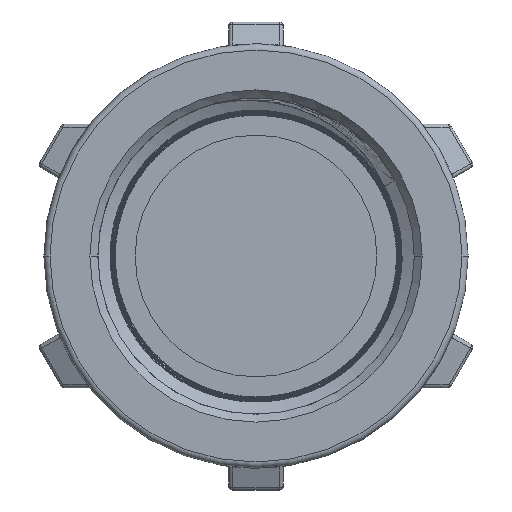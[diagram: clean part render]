
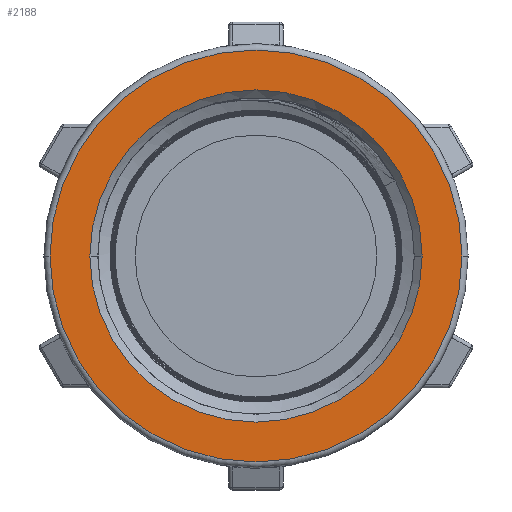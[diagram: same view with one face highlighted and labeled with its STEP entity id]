
A CAD part, front view. The second image highlights one B-rep face of the part: STEP entity #2188.
In plain terms, the highlighted planar face has unit normal (0, -1, 0).
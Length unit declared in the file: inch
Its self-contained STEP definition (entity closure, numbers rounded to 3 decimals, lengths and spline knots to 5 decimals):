
#103=PLANE('',#2350);
#139=CIRCLE('',#2351,1.05709);
#140=CIRCLE('',#2352,1.05709);
#141=CIRCLE('',#2353,0.85236);
#142=CIRCLE('',#2354,0.85236);
#541=VERTEX_POINT('',#3552);
#542=VERTEX_POINT('',#3553);
#543=VERTEX_POINT('',#3556);
#544=VERTEX_POINT('',#3557);
#850=EDGE_CURVE('',#541,#542,#139,.F.);
#851=EDGE_CURVE('',#542,#541,#140,.F.);
#852=EDGE_CURVE('',#543,#544,#141,.T.);
#853=EDGE_CURVE('',#544,#543,#142,.T.);
#1197=ORIENTED_EDGE('',*,*,#850,.T.);
#1198=ORIENTED_EDGE('',*,*,#851,.T.);
#1199=ORIENTED_EDGE('',*,*,#852,.T.);
#1200=ORIENTED_EDGE('',*,*,#853,.T.);
#1867=EDGE_LOOP('',(#1197,#1198));
#1868=EDGE_LOOP('',(#1199,#1200));
#2029=FACE_BOUND('',#1867,.T.);
#2030=FACE_BOUND('',#1868,.T.);
#2188=ADVANCED_FACE('',(#2029,#2030),#103,.F.);
#2350=AXIS2_PLACEMENT_3D('',#3550,#2586,$);
#2351=AXIS2_PLACEMENT_3D('',#3551,#2587,#2588);
#2352=AXIS2_PLACEMENT_3D('',#3554,#2589,#2590);
#2353=AXIS2_PLACEMENT_3D('',#3555,#2591,#2592);
#2354=AXIS2_PLACEMENT_3D('',#3558,#2593,#2594);
#2586=DIRECTION('',(0.,1.,0.));
#2587=DIRECTION('',(0.,1.,0.));
#2588=DIRECTION('',(0.,0.,1.057));
#2589=DIRECTION('',(0.,1.,0.));
#2590=DIRECTION('',(0.,0.,1.057));
#2591=DIRECTION('',(0.,1.,0.));
#2592=DIRECTION('',(0.,0.,-0.852));
#2593=DIRECTION('',(0.,1.,0.));
#2594=DIRECTION('',(0.,0.,-0.852));
#3550=CARTESIAN_POINT('',(0.,0.,0.));
#3551=CARTESIAN_POINT('',(0.,0.,0.));
#3552=CARTESIAN_POINT('',(-1.05709,0.,0.));
#3553=CARTESIAN_POINT('',(1.05709,0.,0.));
#3554=CARTESIAN_POINT('',(0.,0.,0.));
#3555=CARTESIAN_POINT('',(0.,0.,0.));
#3556=CARTESIAN_POINT('',(-0.85236,0.,0.));
#3557=CARTESIAN_POINT('',(0.85236,0.,0.));
#3558=CARTESIAN_POINT('',(0.,0.,0.));
